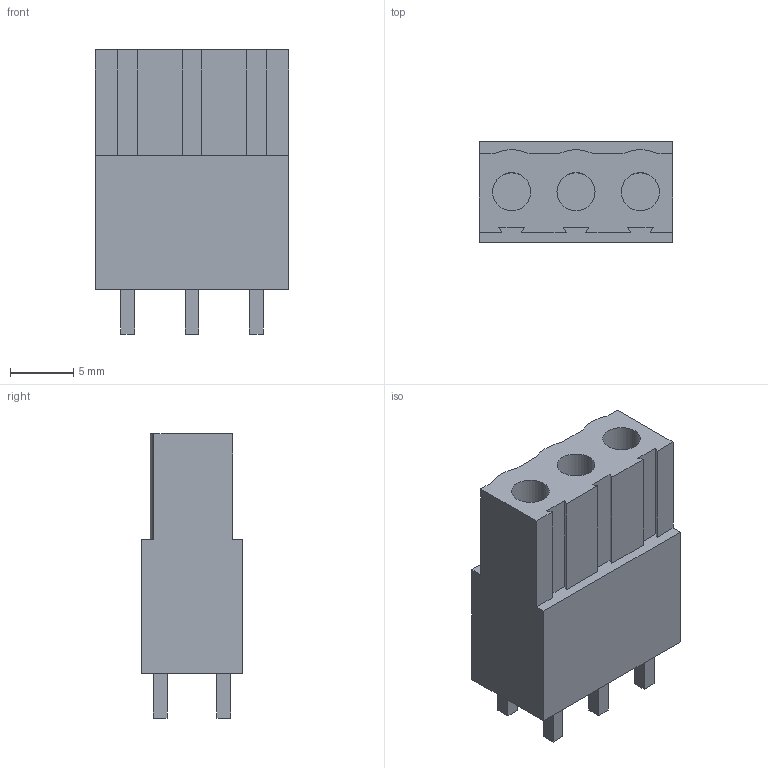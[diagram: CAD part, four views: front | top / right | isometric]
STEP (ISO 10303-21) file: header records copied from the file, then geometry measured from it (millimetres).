
FILE_DESCRIPTION(('FreeCAD Model'),'2;1');
FILE_NAME('Open CASCADE Shape Model','2026-08-19T00:59:22',(''),(''), 'Open CASCADE STEP processor 7.8','FreeCAD','Unknown');
FILE_SCHEMA(('AUTOMOTIVE_DESIGN { 1 0 10303 214 1 1 1 1 }'));
Length unit declared in the file: millimetre
Products named in the file (1): Body
Bounding box: 15.24 x 8 x 22.4 mm (x, y, z)
Volume: 1922.2 mm3; surface area: 1456.2 mm2
Topology: 1 solids, 1 shells, 64 faces, 159 edges, 106 vertices
Faces by surface type: plane 58, cylinder 6
Full cylindrical faces by diameter (mm): 3 x3
Entity records: 1897 total; most frequent: CARTESIAN_POINT 330, ORIENTED_EDGE 318, DIRECTION 301, EDGE_CURVE 159, LINE 147, VECTOR 147, VERTEX_POINT 106, AXIS2_PLACEMENT_3D 77
